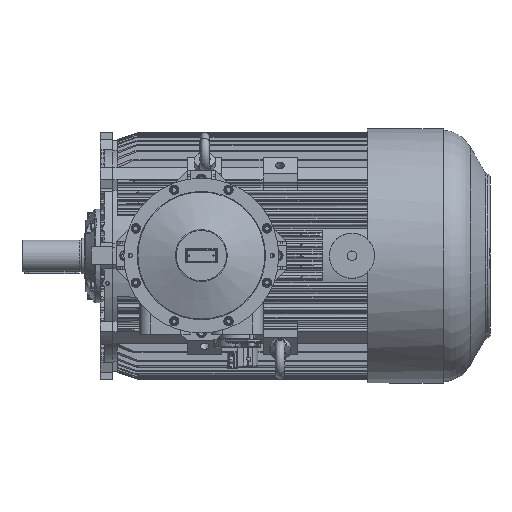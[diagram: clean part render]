
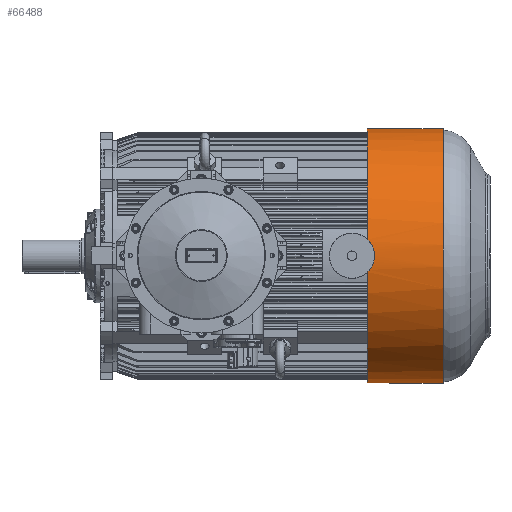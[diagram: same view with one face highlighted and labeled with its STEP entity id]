
A CAD part, top view. The second image highlights one B-rep face of the part: STEP entity #66488.
In plain terms, the highlighted cylindrical face has radius 299.5 mm (diameter 599 mm), a partial arc.
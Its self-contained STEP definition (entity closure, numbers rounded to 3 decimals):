
#5159=LINE('',#108800,#8517);
#5160=LINE('',#108801,#8518);
#8517=VECTOR('',#84061,1000.);
#8518=VECTOR('',#84062,1000.);
#9253=CYLINDRICAL_SURFACE('',#71294,299.5);
#9383=CIRCLE('',#66923,299.5);
#11306=CIRCLE('',#71285,299.5);
#11311=CIRCLE('',#71293,299.5);
#24289=ORIENTED_EDGE('',*,*,#31593,.T.);
#24290=ORIENTED_EDGE('',*,*,#31606,.T.);
#24291=ORIENTED_EDGE('',*,*,#25292,.F.);
#24292=ORIENTED_EDGE('',*,*,#26300,.T.);
#24293=ORIENTED_EDGE('',*,*,#31605,.F.);
#24294=ORIENTED_EDGE('',*,*,#31607,.T.);
#25292=EDGE_CURVE('',#32098,#32099,#9383,.T.);
#26300=EDGE_CURVE('',#32098,#32926,#36792,.T.);
#31593=EDGE_CURVE('',#36271,#36270,#11306,.T.);
#31605=EDGE_CURVE('',#36279,#32926,#11311,.T.);
#31606=EDGE_CURVE('',#36270,#32099,#5159,.T.);
#31607=EDGE_CURVE('',#36279,#36271,#5160,.F.);
#32098=VERTEX_POINT('',#85744);
#32099=VERTEX_POINT('',#85745);
#32926=VERTEX_POINT('',#88698);
#36270=VERTEX_POINT('',#108732);
#36271=VERTEX_POINT('',#108734);
#36279=VERTEX_POINT('',#108797);
#36792=B_SPLINE_CURVE_WITH_KNOTS('',3,(#88699,#88700,#88701,#88702,#88703,
#88704,#88705,#88706,#88707,#88708,#88709,#88710,#88711,#88712,#88713,#88714),
 .UNSPECIFIED.,.F.,.F.,(4,1,1,1,1,1,1,1,1,1,1,1,1,4),(0.,0.011,
0.016,0.021,0.032,0.037,
0.043,0.048,0.054,0.059,
0.064,0.07,0.075,0.086),
 .UNSPECIFIED.);
#40356=EDGE_LOOP('',(#24289,#24290,#24291,#24292,#24293,#24294));
#43685=FACE_BOUND('',#40356,.T.);
#66488=ADVANCED_FACE('',(#43685),#9253,.T.);
#66923=AXIS2_PLACEMENT_3D('',#85743,#72026,#72027);
#71285=AXIS2_PLACEMENT_3D('',#108733,#84039,#84040);
#71293=AXIS2_PLACEMENT_3D('',#108798,#84057,#84058);
#71294=AXIS2_PLACEMENT_3D('',#108799,#84059,#84060);
#72026=DIRECTION('',(-1.,0.,0.));
#72027=DIRECTION('',(0.,0.,1.));
#84039=DIRECTION('',(-1.,0.,0.));
#84040=DIRECTION('',(0.,0.,1.));
#84057=DIRECTION('',(-1.,0.,0.));
#84058=DIRECTION('',(0.,0.,1.));
#84059=DIRECTION('',(-1.,0.,0.));
#84060=DIRECTION('',(0.,0.,1.));
#84061=DIRECTION('',(-1.,0.,0.));
#84062=DIRECTION('',(-1.,0.,0.));
#85743=CARTESIAN_POINT('',(608.5,-0.001,0.));
#85744=CARTESIAN_POINT('',(608.5,38.429,297.024));
#85745=CARTESIAN_POINT('',(608.5,133.923,-267.889));
#88698=CARTESIAN_POINT('',(608.5,-38.429,297.025));
#88699=CARTESIAN_POINT('',(608.5,38.429,297.024));
#88700=CARTESIAN_POINT('',(611.116,35.944,297.346));
#88701=CARTESIAN_POINT('',(614.596,31.886,297.823));
#88702=CARTESIAN_POINT('',(618.387,25.827,298.397));
#88703=CARTESIAN_POINT('',(621.577,19.33,298.907));
#88704=CARTESIAN_POINT('',(623.712,12.553,299.273));
#88705=CARTESIAN_POINT('',(624.819,5.384,299.468));
#88706=CARTESIAN_POINT('',(625.09,0.013,299.516));
#88707=CARTESIAN_POINT('',(624.823,-5.331,299.469));
#88708=CARTESIAN_POINT('',(624.006,-10.686,299.325));
#88709=CARTESIAN_POINT('',(622.648,-15.917,299.091));
#88710=CARTESIAN_POINT('',(620.791,-20.926,298.782));
#88711=CARTESIAN_POINT('',(618.428,-25.754,298.403));
#88712=CARTESIAN_POINT('',(614.603,-31.884,297.825));
#88713=CARTESIAN_POINT('',(611.116,-35.944,297.346));
#88714=CARTESIAN_POINT('',(608.5,-38.429,297.025));
#108732=CARTESIAN_POINT('',(786.5,133.923,-267.889));
#108733=CARTESIAN_POINT('',(786.5,-0.001,0.));
#108734=CARTESIAN_POINT('',(786.5,-133.925,-267.889));
#108797=CARTESIAN_POINT('',(608.5,-133.925,-267.889));
#108798=CARTESIAN_POINT('',(608.5,-0.001,0.));
#108799=CARTESIAN_POINT('',(0.,-0.001,0.));
#108800=CARTESIAN_POINT('',(0.,133.923,-267.889));
#108801=CARTESIAN_POINT('',(0.,-133.925,-267.889));
